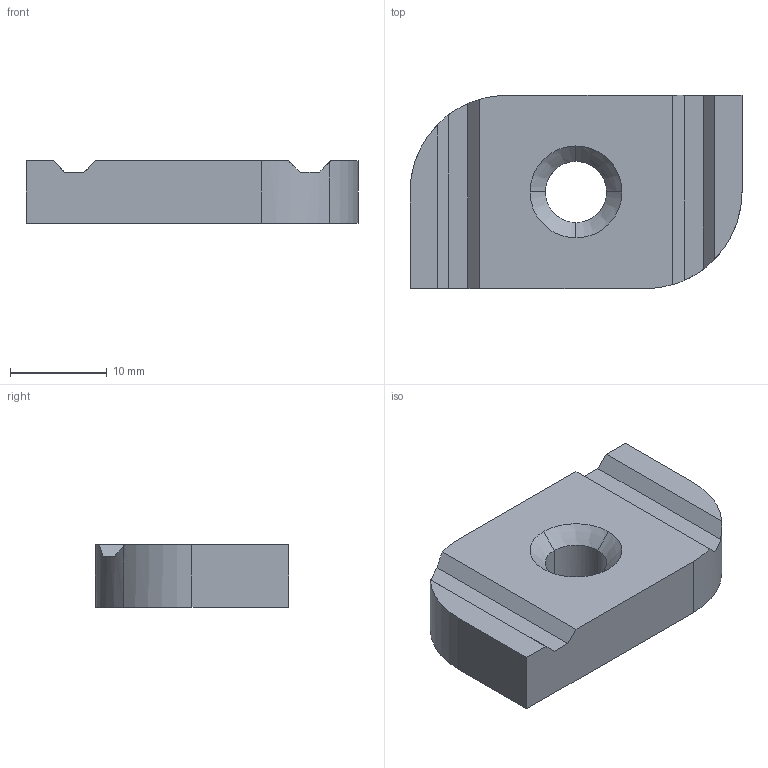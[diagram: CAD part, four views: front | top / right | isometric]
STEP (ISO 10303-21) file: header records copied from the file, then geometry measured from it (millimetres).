
FILE_DESCRIPTION(('TurboCAD Mac Pro'),'Build 980');
FILE_NAME('P3006-1420.stp',' ',(''),(''),'ACIS Interop','IMSI','TurboCAD Mac Pro BY IMSI, INCORPORATED');
FILE_SCHEMA(('automotive_design'));
Length unit declared in the file: inch
Products named in the file (1): 1
Bounding box: 34.4 x 20 x 6.5 mm (x, y, z)
Volume: 3815.1 mm3; surface area: 2012.6 mm2
Topology: 1 solids, 1 shells, 26 faces, 68 edges, 44 vertices
Faces by surface type: plane 14, bspline 8, cylinder 4
Entity records: 1432 total; most frequent: CARTESIAN_POINT 587, ORIENTED_EDGE 136, DIRECTION 110, EDGE_CURVE 68, VERTEX_POINT 44, LINE 40, VECTOR 40, AXIS2_PLACEMENT_3D 35
